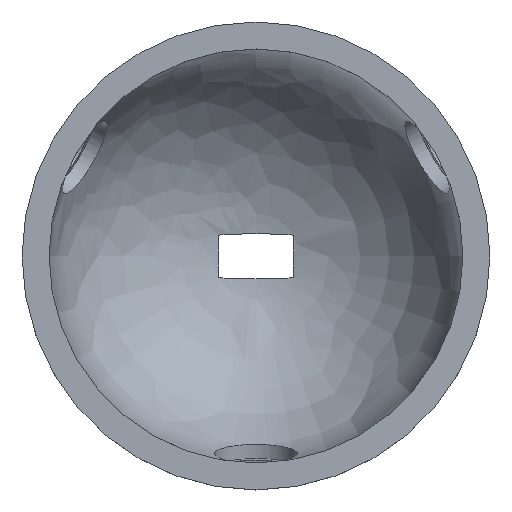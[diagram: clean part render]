
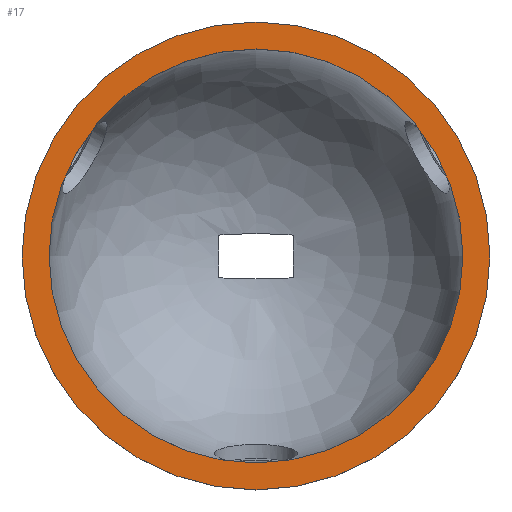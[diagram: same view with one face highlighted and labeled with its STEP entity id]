
A CAD part, top view. The second image highlights one B-rep face of the part: STEP entity #17.
In plain terms, the highlighted planar face has unit normal (0, 0, 1).
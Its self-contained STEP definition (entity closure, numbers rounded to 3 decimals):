
#17 = ADVANCED_FACE('',(#18,#54),#31,.T.);
#18 = FACE_BOUND('',#19,.F.);
#19 = EDGE_LOOP('',(#20));
#20 = ORIENTED_EDGE('',*,*,#21,.T.);
#21 = EDGE_CURVE('',#22,#22,#24,.T.);
#22 = VERTEX_POINT('',#23);
#23 = CARTESIAN_POINT('',(23.,0.,0.));
#24 = SURFACE_CURVE('',#25,(#30,#42),.PCURVE_S1.);
#25 = CIRCLE('',#26,23.);
#26 = AXIS2_PLACEMENT_3D('',#27,#28,#29);
#27 = CARTESIAN_POINT('',(0.,0.,0.));
#28 = DIRECTION('',(0.,0.,1.));
#29 = DIRECTION('',(1.,0.,-0.));
#30 = PCURVE('',#31,#36);
#31 = PLANE('',#32);
#32 = AXIS2_PLACEMENT_3D('',#33,#34,#35);
#33 = CARTESIAN_POINT('',(0.,0.,0.));
#34 = DIRECTION('',(0.,0.,1.));
#35 = DIRECTION('',(1.,0.,-0.));
#36 = DEFINITIONAL_REPRESENTATION('',(#37),#41);
#37 = CIRCLE('',#38,23.);
#38 = AXIS2_PLACEMENT_2D('',#39,#40);
#39 = CARTESIAN_POINT('',(0.,0.));
#40 = DIRECTION('',(1.,-0.));
#41 = ( GEOMETRIC_REPRESENTATION_CONTEXT(2) 
PARAMETRIC_REPRESENTATION_CONTEXT() REPRESENTATION_CONTEXT('2D SPACE',''
  ) );
#42 = PCURVE('',#43,#48);
#43 = CYLINDRICAL_SURFACE('',#44,23.);
#44 = AXIS2_PLACEMENT_3D('',#45,#46,#47);
#45 = CARTESIAN_POINT('',(0.,0.,-4.));
#46 = DIRECTION('',(0.,0.,1.));
#47 = DIRECTION('',(1.,0.,-0.));
#48 = DEFINITIONAL_REPRESENTATION('',(#49),#53);
#49 = LINE('',#50,#51);
#50 = CARTESIAN_POINT('',(0.,4.));
#51 = VECTOR('',#52,1.);
#52 = DIRECTION('',(1.,0.));
#53 = ( GEOMETRIC_REPRESENTATION_CONTEXT(2) 
PARAMETRIC_REPRESENTATION_CONTEXT() REPRESENTATION_CONTEXT('2D SPACE',''
  ) );
#54 = FACE_BOUND('',#55,.F.);
#55 = EDGE_LOOP('',(#56));
#56 = ORIENTED_EDGE('',*,*,#57,.F.);
#57 = EDGE_CURVE('',#58,#58,#60,.T.);
#58 = VERTEX_POINT('',#59);
#59 = CARTESIAN_POINT('',(26.,0.,0.));
#60 = SURFACE_CURVE('',#61,(#66,#73),.PCURVE_S1.);
#61 = CIRCLE('',#62,26.);
#62 = AXIS2_PLACEMENT_3D('',#63,#64,#65);
#63 = CARTESIAN_POINT('',(0.,0.,0.));
#64 = DIRECTION('',(0.,0.,1.));
#65 = DIRECTION('',(1.,0.,-0.));
#66 = PCURVE('',#31,#67);
#67 = DEFINITIONAL_REPRESENTATION('',(#68),#72);
#68 = CIRCLE('',#69,26.);
#69 = AXIS2_PLACEMENT_2D('',#70,#71);
#70 = CARTESIAN_POINT('',(0.,0.));
#71 = DIRECTION('',(1.,-0.));
#72 = ( GEOMETRIC_REPRESENTATION_CONTEXT(2) 
PARAMETRIC_REPRESENTATION_CONTEXT() REPRESENTATION_CONTEXT('2D SPACE',''
  ) );
#73 = PCURVE('',#74,#79);
#74 = CYLINDRICAL_SURFACE('',#75,26.);
#75 = AXIS2_PLACEMENT_3D('',#76,#77,#78);
#76 = CARTESIAN_POINT('',(0.,0.,0.));
#77 = DIRECTION('',(-0.,-0.,-1.));
#78 = DIRECTION('',(1.,0.,0.));
#79 = DEFINITIONAL_REPRESENTATION('',(#80),#84);
#80 = LINE('',#81,#82);
#81 = CARTESIAN_POINT('',(-0.,0.));
#82 = VECTOR('',#83,1.);
#83 = DIRECTION('',(-1.,0.));
#84 = ( GEOMETRIC_REPRESENTATION_CONTEXT(2) 
PARAMETRIC_REPRESENTATION_CONTEXT() REPRESENTATION_CONTEXT('2D SPACE',''
  ) );
